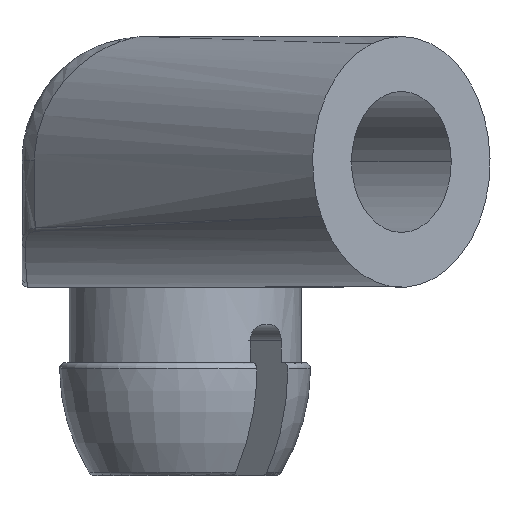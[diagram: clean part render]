
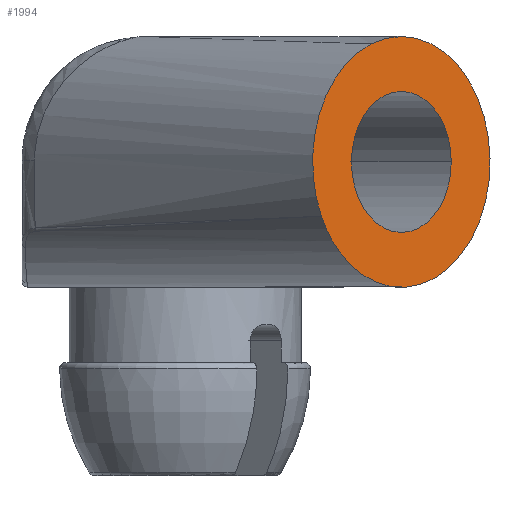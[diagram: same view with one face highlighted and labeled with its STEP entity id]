
A CAD part, front view. The second image highlights one B-rep face of the part: STEP entity #1994.
In plain terms, the highlighted planar face has unit normal (0.707, -0.707, 0).
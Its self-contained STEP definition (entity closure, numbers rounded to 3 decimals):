
#56 = CARTESIAN_POINT ( 'NONE',  ( 2.174, -6.901, 7.133 ) ) ;
#104 = DIRECTION ( 'NONE',  ( -0.707, 0.707, 0. ) ) ;
#143 = DIRECTION ( 'NONE',  ( 0.707, -0.707, 0. ) ) ;
#177 = CIRCLE ( 'NONE', #645, 2. ) ;
#184 = FACE_BOUND ( 'NONE', #817, .T. ) ;
#224 = EDGE_CURVE ( 'NONE', #1078, #818, #177, .T. ) ;
#234 = VERTEX_POINT ( 'NONE', #1440 ) ;
#258 = CARTESIAN_POINT ( 'NONE',  ( 4.244, -4.831, 8. ) ) ;
#262 = AXIS2_PLACEMENT_3D ( 'NONE', #2379, #143, #1173 ) ;
#396 = CARTESIAN_POINT ( 'NONE',  ( 3.449, -5.627, 8. ) ) ;
#410 = EDGE_CURVE ( 'NONE', #234, #545, #601, .T. ) ;
#464 = CARTESIAN_POINT ( 'NONE',  ( 3.449, -5.627, 8. ) ) ;
#484 = DIRECTION ( 'NONE',  ( -0.707, 0.707, 0. ) ) ;
#510 = DIRECTION ( 'NONE',  ( 0.707, 0.707, 0. ) ) ;
#516 = DIRECTION ( 'NONE',  ( -0.707, 0.707, 0. ) ) ;
#525 = PLANE ( 'NONE',  #262 ) ;
#545 = VERTEX_POINT ( 'NONE', #2363 ) ;
#571 = CIRCLE ( 'NONE', #1872, 1.125 ) ;
#601 = CIRCLE ( 'NONE', #1195, 2. ) ;
#608 = DIRECTION ( 'NONE',  ( 0.707, 0.707, 0. ) ) ;
#619 = ORIENTED_EDGE ( 'NONE', *, *, #1060, .F. ) ;
#630 = VERTEX_POINT ( 'NONE', #258 ) ;
#645 = AXIS2_PLACEMENT_3D ( 'NONE', #396, #2668, #608 ) ;
#709 = DIRECTION ( 'NONE',  ( -0.707, 0.707, 0. ) ) ;
#754 = ORIENTED_EDGE ( 'NONE', *, *, #2419, .T. ) ;
#817 = EDGE_LOOP ( 'NONE', ( #754, #2047 ) ) ;
#818 = VERTEX_POINT ( 'NONE', #2527 ) ;
#884 = DIRECTION ( 'NONE',  ( -0.707, 0.707, 0. ) ) ;
#909 = EDGE_LOOP ( 'NONE', ( #1716, #2573, #619, #2589 ) ) ;
#1039 = VERTEX_POINT ( 'NONE', #2114 ) ;
#1060 = EDGE_CURVE ( 'NONE', #545, #1078, #1220, .T. ) ;
#1078 = VERTEX_POINT ( 'NONE', #56 ) ;
#1113 = FACE_OUTER_BOUND ( 'NONE', #909, .T. ) ;
#1173 = DIRECTION ( 'NONE',  ( 0.707, 0.707, 0. ) ) ;
#1195 = AXIS2_PLACEMENT_3D ( 'NONE', #1754, #104, #510 ) ;
#1220 = CIRCLE ( 'NONE', #2618, 2. ) ;
#1282 = CIRCLE ( 'NONE', #1723, 1.125 ) ;
#1439 = CIRCLE ( 'NONE', #2385, 2. ) ;
#1440 = CARTESIAN_POINT ( 'NONE',  ( 3.272, -5.804, 6.016 ) ) ;
#1500 = DIRECTION ( 'NONE',  ( 0.707, 0.707, 0. ) ) ;
#1520 = DIRECTION ( 'NONE',  ( 0.707, 0.707, 0. ) ) ;
#1716 = ORIENTED_EDGE ( 'NONE', *, *, #1915, .F. ) ;
#1723 = AXIS2_PLACEMENT_3D ( 'NONE', #2398, #709, #2171 ) ;
#1754 = CARTESIAN_POINT ( 'NONE',  ( 3.449, -5.627, 8. ) ) ;
#1872 = AXIS2_PLACEMENT_3D ( 'NONE', #2175, #484, #1520 ) ;
#1915 = EDGE_CURVE ( 'NONE', #818, #234, #1439, .T. ) ;
#1955 = DIRECTION ( 'NONE',  ( 0.707, 0.707, 0. ) ) ;
#1994 = ADVANCED_FACE ( 'NONE', ( #184, #1113 ), #525, .T. ) ;
#2020 = EDGE_CURVE ( 'NONE', #1039, #630, #571, .T. ) ;
#2047 = ORIENTED_EDGE ( 'NONE', *, *, #2020, .T. ) ;
#2114 = CARTESIAN_POINT ( 'NONE',  ( 2.653, -6.422, 8. ) ) ;
#2171 = DIRECTION ( 'NONE',  ( 0.707, 0.707, 0. ) ) ;
#2175 = CARTESIAN_POINT ( 'NONE',  ( 3.449, -5.627, 8. ) ) ;
#2363 = CARTESIAN_POINT ( 'NONE',  ( 2.463, -6.613, 6.566 ) ) ;
#2379 = CARTESIAN_POINT ( 'NONE',  ( 3.449, -5.627, 8. ) ) ;
#2385 = AXIS2_PLACEMENT_3D ( 'NONE', #2599, #516, #1955 ) ;
#2398 = CARTESIAN_POINT ( 'NONE',  ( 3.449, -5.627, 8. ) ) ;
#2419 = EDGE_CURVE ( 'NONE', #630, #1039, #1282, .T. ) ;
#2527 = CARTESIAN_POINT ( 'NONE',  ( 2.967, -6.108, 9.881 ) ) ;
#2573 = ORIENTED_EDGE ( 'NONE', *, *, #224, .F. ) ;
#2589 = ORIENTED_EDGE ( 'NONE', *, *, #410, .F. ) ;
#2599 = CARTESIAN_POINT ( 'NONE',  ( 3.449, -5.627, 8. ) ) ;
#2618 = AXIS2_PLACEMENT_3D ( 'NONE', #464, #884, #1500 ) ;
#2668 = DIRECTION ( 'NONE',  ( -0.707, 0.707, 0. ) ) ;
